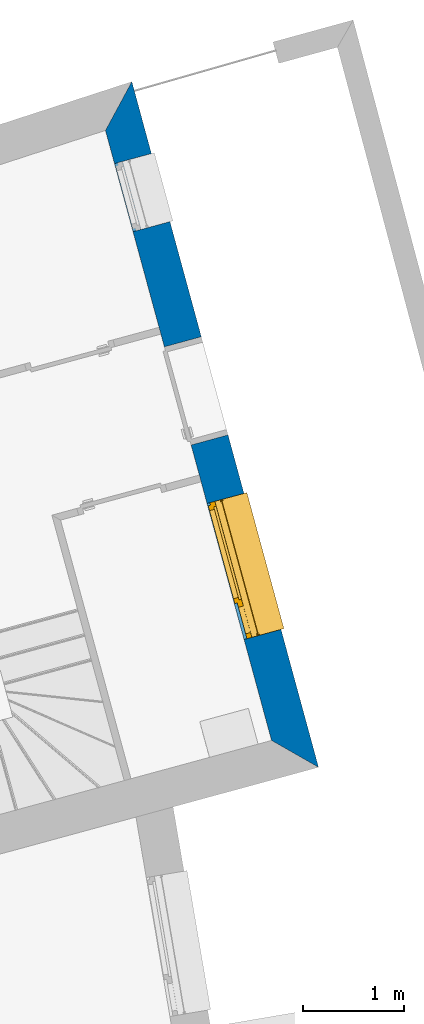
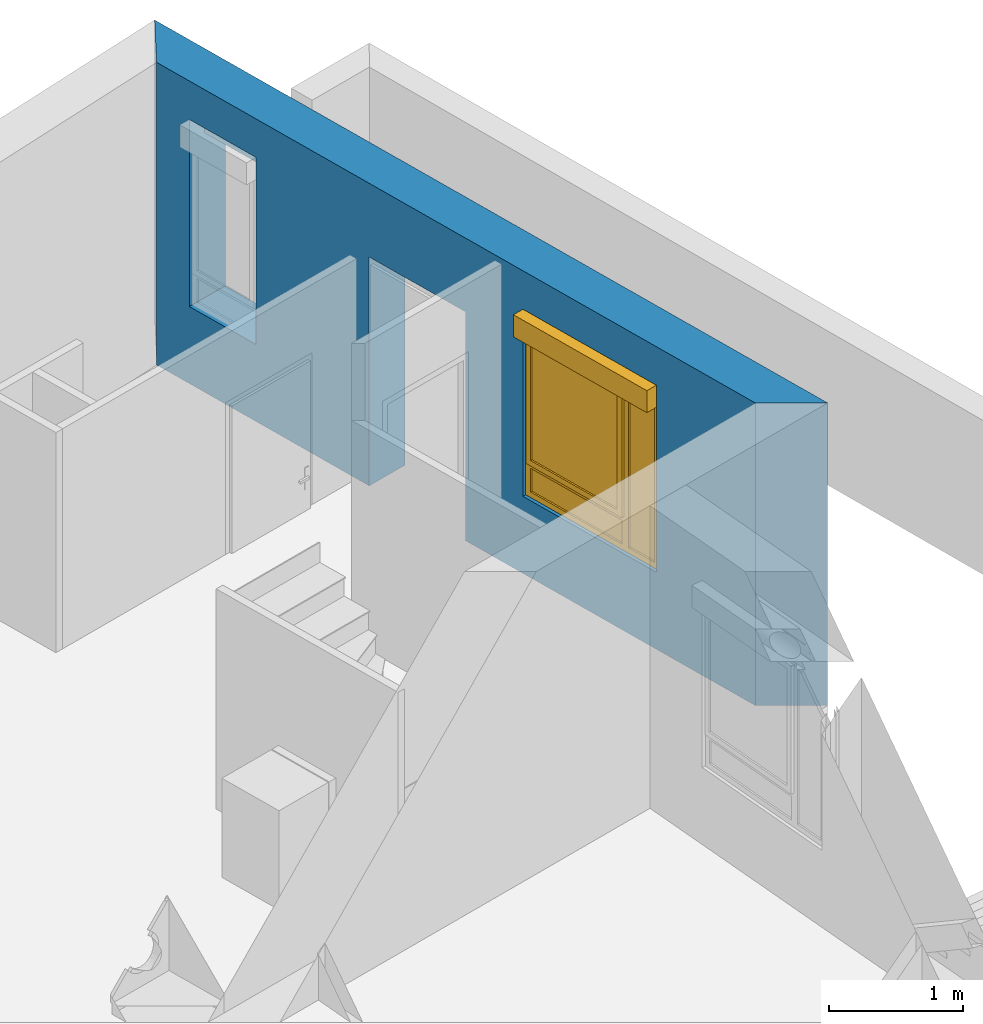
# One storey, part 96 of 195: 1 wall, 1 window, 3 openings.
"""IFC2X3 building model written with IfcOpenShell, lengths in metres."""

import ifcopenshell
import ifcopenshell.guid

model = None  # the IFC model being written
_history = None  # IfcOwnerHistory: only IFC2X3 demands one
_inside = {}  # id of a spatial element -> (the spatial element, [elements in it])
_under = {}  # id of a project, library or spatial element -> (it, [spatial elements below it])
_declared = {}  # id of a project -> (the project, [libraries it declares])
_typed = {}  # id of a type object -> (the type object, [elements of that type])
_made_of = {}  # id of a material, layer set ... -> (it, [elements and type objects made of it])


def new_model(schema):
    """Start an empty IFC model of exactly this schema.

    Asked for "IFC4X3", IfcOpenShell would pick the latest addendum, in which some entities
    have other attributes; the version numbers below select the first issue.
    IFC2X3 requires an IfcOwnerHistory on every rooted entity: one is made here for all.
    """
    global model, _history
    if schema == "IFC4X3":
        model = ifcopenshell.file(schema_version=(4, 3, 0, 0))
    else:
        model = ifcopenshell.file(schema=schema)
    _inside.clear()
    _under.clear()
    _declared.clear()
    _typed.clear()
    _made_of.clear()
    _history = None
    if model.schema == "IFC2X3":
        org = make("IfcOrganization", Name="unknown")
        user = make(
            "IfcPersonAndOrganization",
            ThePerson=make("IfcPerson", FamilyName="unknown"),
            TheOrganization=org,
        )
        app = make(
            "IfcApplication",
            ApplicationDeveloper=org,
            Version="unknown",
            ApplicationFullName="unknown",
            ApplicationIdentifier="unknown",
        )
        _history = make(
            "IfcOwnerHistory",
            OwningUser=user,
            OwningApplication=app,
            ChangeAction="ADDED",
            CreationDate=0,
        )
    return model


def make(cls, **values):
    """One entity of the class cls with the attributes given. An attribute that is None is left unset."""
    return model.create_entity(
        cls, **{name: value for name, value in values.items() if value is not None}
    )


def entity(cls, *values):
    """Any entity or typed value of the class cls, its attributes in the order of the schema. None: left unset."""
    e = model.create_entity(cls)
    for i, value in enumerate(values):
        if value is not None:
            e[i] = value
    return e


def rooted(cls, **values):
    """An entity with a GlobalId (a new one), such as an element, a storey or a relation."""
    return make(cls, GlobalId=ifcopenshell.guid.new(), OwnerHistory=_history, **values)


def si_unit(unit_type, name, prefix=None):
    """IfcSIUnit, for example si_unit("LENGTHUNIT", "METRE", prefix="MILLI")."""
    return make("IfcSIUnit", UnitType=unit_type, Prefix=prefix, Name=name)


def converted_unit(unit_type, name, factor, base, dimensions=None, offset=None):
    """IfcConversionBasedUnit, such as the inch: factor (a typed value) times the base unit."""
    return make(
        "IfcConversionBasedUnit"
        if offset is None
        else "IfcConversionBasedUnitWithOffset",
        ConversionOffset=offset,
        Dimensions=None
        if dimensions is None
        else entity("IfcDimensionalExponents", *dimensions),
        UnitType=unit_type,
        Name=name,
        ConversionFactor=make(
            "IfcMeasureWithUnit", ValueComponent=factor, UnitComponent=base
        ),
    )


def derived_unit(unit_type, elements):
    """IfcDerivedUnit: a product of units, each with its exponent."""
    return make(
        "IfcDerivedUnit",
        Elements=[
            make("IfcDerivedUnitElement", Unit=unit, Exponent=power)
            for unit, power in elements
        ],
        UnitType=unit_type,
    )


def money_unit(currency):
    """IfcMonetaryUnit."""
    return make("IfcMonetaryUnit", Currency=currency)


def assignment(units):
    """IfcUnitAssignment: the units of a project."""
    return None if units is None else make("IfcUnitAssignment", Units=units)


def point(xyz):
    """IfcCartesianPoint."""
    return None if xyz is None else make("IfcCartesianPoint", Coordinates=xyz)


def direction(xyz):
    """IfcDirection."""
    return None if xyz is None else make("IfcDirection", DirectionRatios=xyz)


def frame(location, z_axis=None, x_axis=None):
    """IfcAxis2Placement3D, a coordinate frame: its origin and axes. An axis left out is left unset."""
    return make(
        "IfcAxis2Placement3D",
        Location=point(location),
        Axis=direction(z_axis),
        RefDirection=direction(x_axis),
    )


def frame_2d(location, x_axis=None):
    """IfcAxis2Placement2D, a coordinate frame in the plane: its origin and x axis."""
    return make(
        "IfcAxis2Placement2D", Location=point(location), RefDirection=direction(x_axis)
    )


def origin_with_axes():
    """The frame at (0, 0, 0) with the z axis (0, 0, 1) and the x axis (1, 0, 0) written out."""
    return frame((0.0, 0.0, 0.0), z_axis=(0.0, 0.0, 1.0), x_axis=(1.0, 0.0, 0.0))


def origin_2d_with_axis():
    """The frame at (0, 0) in the plane with the x axis (1, 0) written out."""
    return frame_2d((0.0, 0.0), x_axis=(1.0, 0.0))


def place(relative_to, where):
    """IfcLocalPlacement: puts the frame where relative to a parent placement (None: the world)."""
    return make(
        "IfcLocalPlacement", PlacementRelTo=relative_to, RelativePlacement=where
    )


def context(
    kind, dimensions, precision=None, world=None, true_north=None, identifier=None
):
    """IfcGeometricRepresentationContext, for example the 3D "Model" context."""
    return make(
        "IfcGeometricRepresentationContext",
        ContextIdentifier=identifier,
        ContextType=kind,
        CoordinateSpaceDimension=dimensions,
        Precision=precision,
        WorldCoordinateSystem=world,
        TrueNorth=true_north,
    )


def subcontext(parent, identifier, kind, view, scale=None):
    """IfcGeometricRepresentationSubContext, for example "Body" below "Model"."""
    return make(
        "IfcGeometricRepresentationSubContext",
        ContextIdentifier=identifier,
        ContextType=kind,
        ParentContext=parent,
        TargetScale=scale,
        TargetView=view,
    )


def project(units=None, contexts=None):
    """IfcProject with its units and contexts."""
    return rooted(
        "IfcProject",
        Name="project",
        RepresentationContexts=contexts,
        UnitsInContext=assignment(units),
    )


def spatial(cls, under=None, at=None, **own):
    """A site, building, storey or space (cls), placed at a placement, below another one or the project."""
    s = rooted(cls, ObjectPlacement=at, **own)
    if under is not None:
        _under.setdefault(under.id(), (under, []))[1].append(s)
    return s


def polyline(points):
    """IfcPolyline through the points."""
    return make("IfcPolyline", Points=[point(p) for p in points])


def profile(cls, at=None, kind="AREA", **sizes):
    """A parametric profile (cls). Its sizes go by their IFC names, for example OverallWidth=200.0."""
    return make(cls, ProfileType=kind, Position=at, **sizes)


def rectangle(**sizes):
    """IfcRectangleProfileDef."""
    return profile("IfcRectangleProfileDef", **sizes)


def outline(outer, holes=None, kind="AREA"):
    """IfcArbitraryClosedProfileDef: a profile drawn as a closed curve; with holes, ...WithVoids."""
    if holes is None:
        return make("IfcArbitraryClosedProfileDef", ProfileType=kind, OuterCurve=outer)
    return make(
        "IfcArbitraryProfileDefWithVoids",
        ProfileType=kind,
        OuterCurve=outer,
        InnerCurves=holes,
    )


def extrude(swept, where, along, depth):
    """IfcExtrudedAreaSolid: the profile swept, set in the frame where, extruded along a direction by depth."""
    return make(
        "IfcExtrudedAreaSolid",
        SweptArea=swept,
        Position=where,
        ExtrudedDirection=direction(along),
        Depth=depth,
    )


def faces_of(points, faces, orient=None, outer=None):
    """IfcFace entities. A face is a list of loops; a loop is a list of indices into points, from 0.

    orient and outer hold one flag for each loop. By default every Orientation is true, the
    first loop of a face is its IfcFaceOuterBound and the others are IfcFaceBound.
    """
    made = []
    for i, loops in enumerate(faces):
        bounds = []
        for j, loop in enumerate(loops):
            is_outer = j == 0 if outer is None else outer[i][j]
            bounds.append(
                make(
                    "IfcFaceOuterBound" if is_outer else "IfcFaceBound",
                    Bound=make("IfcPolyLoop", Polygon=[points[k] for k in loop]),
                    Orientation=True if orient is None else orient[i][j],
                )
            )
        made.append(make("IfcFace", Bounds=bounds))
    return made


def open_shell(faces, orient=None, outer=None):
    """The faces of one IfcOpenShell. surface_model builds it on its shared points."""
    return ("IfcOpenShell", faces, orient, outer)


def faceted_brep(points, faces, orient=None, outer=None, voids=None):
    """IfcFacetedBrep: a solid bounded by flat faces; with voids (closed shells), ...WithVoids."""
    shared = [point(p) for p in points]
    hull = make("IfcClosedShell", CfsFaces=faces_of(shared, faces, orient, outer))
    if voids is None:
        return make("IfcFacetedBrep", Outer=hull)
    return make(
        "IfcFacetedBrepWithVoids",
        Outer=hull,
        Voids=[
            make(cls, CfsFaces=faces_of(shared, fs, o, b)) for cls, fs, o, b in voids
        ],
    )


def surface_model(cls, points, shells):
    """IfcFaceBasedSurfaceModel or IfcShellBasedSurfaceModel (cls): surfaces that need not close."""
    shared = [point(p) for p in points]
    made = [make(c, CfsFaces=faces_of(shared, fs, o, b)) for c, fs, o, b in shells]
    if cls == "IfcFaceBasedSurfaceModel":
        return make(cls, FbsmFaces=made)
    return make(cls, SbsmBoundary=made)


def shape(context_of_items, identifier, shape_type, items):
    """IfcShapeRepresentation: the items that make up one representation, for example the "Body"."""
    return make(
        "IfcShapeRepresentation",
        ContextOfItems=context_of_items,
        RepresentationIdentifier=identifier,
        RepresentationType=shape_type,
        Items=items,
    )


def source(mapping_origin, context_of_items, identifier, shape_type, items):
    """IfcRepresentationMap: a shape defined once, which mapped items show again and again."""
    return make(
        "IfcRepresentationMap",
        MappingOrigin=mapping_origin,
        MappedRepresentation=shape(context_of_items, identifier, shape_type, items),
    )


def transform(
    local_origin,
    x_axis=None,
    y_axis=None,
    z_axis=None,
    scale=None,
    scale2=None,
    scale3=None,
    uniform=True,
):
    """IfcCartesianTransformationOperator3D, or its non-uniform kind. x_axis, y_axis, z_axis: its Axis1, 2, 3."""
    if uniform:
        return make(
            "IfcCartesianTransformationOperator3D",
            Axis1=direction(x_axis),
            Axis2=direction(y_axis),
            LocalOrigin=point(local_origin),
            Scale=scale,
            Axis3=direction(z_axis),
        )
    return make(
        "IfcCartesianTransformationOperator3DnonUniform",
        Axis1=direction(x_axis),
        Axis2=direction(y_axis),
        LocalOrigin=point(local_origin),
        Scale=scale,
        Axis3=direction(z_axis),
        Scale2=scale2,
        Scale3=scale3,
    )


def mapped(mapping_source, mapping_target):
    """IfcMappedItem: shows the shape of a source again, moved by a transform."""
    return make(
        "IfcMappedItem", MappingSource=mapping_source, MappingTarget=mapping_target
    )


def material(Name=None, Category=None):
    """IfcMaterial."""
    return make("IfcMaterial", Name=Name, Category=Category)


def layer(
    of_material, thickness, ventilated=None, Name=None, Category=None, Priority=None
):
    """IfcMaterialLayer: one layer of a wall or slab, of a material (None: an air gap)."""
    return make(
        "IfcMaterialLayer",
        Material=of_material,
        LayerThickness=thickness,
        IsVentilated=ventilated,
        Name=Name,
        Category=Category,
        Priority=Priority,
    )


def layer_set(layers, Name=None):
    """IfcMaterialLayerSet."""
    return make("IfcMaterialLayerSet", MaterialLayers=layers, LayerSetName=Name)


def layer_usage(for_layer_set, set_direction, sense, offset, extent=None):
    """IfcMaterialLayerSetUsage: how a layer set lies in its element."""
    return make(
        "IfcMaterialLayerSetUsage",
        ForLayerSet=for_layer_set,
        LayerSetDirection=set_direction,
        DirectionSense=sense,
        OffsetFromReferenceLine=offset,
        ReferenceExtent=extent,
    )


def made_of(thing, what):
    """Note that an element or type object is made of a material, layer set ...; save() writes the relation."""
    if what is not None:
        _made_of.setdefault(what.id(), (what, []))[1].append(thing)
    return thing


def type_object(cls, material=None, **own):
    """A type object (cls), such as IfcWallType, which elements share."""
    return made_of(rooted(cls, **own), material)


def element(
    cls,
    number,
    at=None,
    inside=None,
    cuts=None,
    type_object=None,
    material=None,
    context=None,
    identifier="Body",
    shape_type=None,
    held_by="IfcProductDefinitionShape",
    body=None,
    shapes=None,
    **own,
):
    """One element of the class cls, such as IfcWall. Its Tag is "e" and its number.

    at: its placement. inside: the storey or other place that contains it. cuts: it is an
    opening in that element (IfcRelVoidsElement). A single representation is given by context,
    identifier, shape_type and body (its items); several are given by shapes. held_by: the class
    of the entity that holds the representations. save() writes the other relations.
    """
    e = rooted(cls, Tag="e%d" % number, ObjectPlacement=at, **own)
    if body is not None:
        shapes = [shape(context, identifier, shape_type, body)]
    if shapes is not None:
        e.Representation = make(held_by, Representations=shapes)
    if inside is not None:
        _inside.setdefault(inside.id(), (inside, []))[1].append(e)
    if cuts is not None:
        rooted(
            "IfcRelVoidsElement", RelatingBuildingElement=cuts, RelatedOpeningElement=e
        )
    if type_object is not None:
        _typed.setdefault(type_object.id(), (type_object, []))[1].append(e)
    return made_of(e, material)


def fill(opening, filler):
    """IfcRelFillsElement: the door or window that sits in an opening."""
    return rooted(
        "IfcRelFillsElement",
        RelatingOpeningElement=opening,
        RelatedBuildingElement=filler,
    )


def aggregate(whole, parts):
    """IfcRelAggregates: a whole, such as a stair, and the parts it consists of."""
    return rooted("IfcRelAggregates", RelatingObject=whole, RelatedObjects=parts)


def save(model, path):
    """Write the relations noted so far, then the file.

    IfcRelAggregates (storeys below a building ...), IfcRelContainedInSpatialStructure (elements
    in a storey), IfcRelDefinesByType, IfcRelAssociatesMaterial and IfcRelDeclares: one each for
    every whole, place, type object, material and project.
    """
    for whole, parts in _under.values():
        aggregate(whole, parts)
    for where, things in _inside.values():
        rooted(
            "IfcRelContainedInSpatialStructure",
            RelatedElements=things,
            RelatingStructure=where,
        )
    for kind, things in _typed.values():
        rooted("IfcRelDefinesByType", RelatedObjects=things, RelatingType=kind)
    for what, things in _made_of.values():
        rooted("IfcRelAssociatesMaterial", RelatedObjects=things, RelatingMaterial=what)
    for by, libraries in _declared.values():
        rooted("IfcRelDeclares", RelatingContext=by, RelatedDefinitions=libraries)
    model.write(path)


model = new_model("IFC2X3")

# Units and contexts
model_context = context("Model", 3, precision=1e-05, world=origin_with_axes(), true_north=direction((0.0, 1.0)))
body_context = subcontext(model_context, "Body", "Model", "MODEL_VIEW")
ifc_project = project(units=[si_unit("LENGTHUNIT", "METRE"), si_unit("AREAUNIT", "SQUARE_METRE"), si_unit("VOLUMEUNIT", "CUBIC_METRE"), converted_unit("PLANEANGLEUNIT", "DEGREE", entity("IfcPlaneAngleMeasure", 0.0174532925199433), si_unit("PLANEANGLEUNIT", "RADIAN"), dimensions=[0, 0, 0, 0, 0, 0, 0]), money_unit("CHF"), converted_unit("TIMEUNIT", "Year", entity("IfcTimeMeasure", 31557600.0), si_unit("TIMEUNIT", "SECOND"), dimensions=[0, 0, 1, 0, 0, 0, 0]), si_unit("MASSUNIT", "GRAM", prefix="KILO"), si_unit("THERMODYNAMICTEMPERATUREUNIT", "DEGREE_CELSIUS"), si_unit("LUMINOUSINTENSITYUNIT", "LUMEN"), si_unit("ENERGYUNIT", "JOULE", prefix="MEGA"), derived_unit("THERMALCONDUCTANCEUNIT", [(si_unit("POWERUNIT", "WATT"), 1), (si_unit("LENGTHUNIT", "METRE"), -1), (si_unit("THERMODYNAMICTEMPERATUREUNIT", "KELVIN"), -1)]), derived_unit("SPECIFICHEATCAPACITYUNIT", [(si_unit("ENERGYUNIT", "JOULE"), 1), (si_unit("MASSUNIT", "GRAM", prefix="KILO"), -1), (si_unit("THERMODYNAMICTEMPERATUREUNIT", "KELVIN"), -1)]), derived_unit("MASSDENSITYUNIT", [(si_unit("MASSUNIT", "GRAM", prefix="KILO"), 1), (si_unit("VOLUMEUNIT", "CUBIC_METRE"), -1)])], contexts=[model_context])

# Site, building, storey
site_placement = place(None, origin_with_axes())
site = spatial("IfcSite", under=ifc_project, at=site_placement, Name="Site", CompositionType="ELEMENT")
building_placement = place(site_placement, origin_with_axes())
building = spatial("IfcBuilding", under=site, at=building_placement, Name="Bâtiment", CompositionType="ELEMENT")
storey_placement = place(building_placement, origin_with_axes())
storey = spatial("IfcBuildingStorey", under=building, at=storey_placement, Name="rdc", CompositionType="ELEMENT", Elevation=0.0)

# Wall, openings, window
ifc_material_1 = material(Name="Parpaing 312445824")
ifc_layer_1 = layer(ifc_material_1, 0.22, ventilated="UNKNOWN")
ifc_material_2 = material(Name="Isolant styromousse 301821074")
ifc_layer_2 = layer(ifc_material_2, 0.16, ventilated="UNKNOWN")
ifc_layer_set = layer_set([ifc_layer_1, ifc_layer_2], Name="isol int 22+16 0836643197")
ifc_layer_usage = layer_usage(ifc_layer_set, "AXIS2", "NEGATIVE", 0.0)
wall_type = type_object("IfcWallType", Name="isol int 22+16 0836643197 380", PredefinedType="NOTDEFINED")
wall_placement = place(storey_placement, frame((9586.85805817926, -1013.814604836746, 57.7), z_axis=(0.0, 0.0, 1.0), x_axis=(0.2627340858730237, -0.9648682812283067, 0.0)))
wall = element("IfcWallStandardCase", 1, at=wall_placement, inside=storey, type_object=wall_type, material=ifc_layer_usage, Name="Mur-113", context=body_context, shape_type="SweptSolid", body=[
    extrude(outline(polyline([(0.3988171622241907, -0.3799999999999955), (6.677999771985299, -0.3799999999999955), (7.057999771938, 0.0), (0.0, 0.0), (0.3988171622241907, -0.3799999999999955)])), origin_with_axes(), (0.0, 0.0, 1.0), 2.75),
])
opening_1_placement = place(wall_placement, frame((4.938572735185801, 0.0, 0.7000000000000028), z_axis=(0.0, 0.0, 1.0), x_axis=(1.0, 0.0, 0.0)))
opening_1 = element("IfcOpeningElement", 2, at=opening_1_placement, cuts=wall, Name="Fen-045", context=body_context, shape_type="Brep", body=[
    faceted_brep([(-0.6999999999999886, -0.220000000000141, 1.5), (0.6999999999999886, -0.220000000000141, 1.5), (0.6999999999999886, 1.790229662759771, 1.5), (-0.7000000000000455, 1.790229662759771, 1.5), (-0.6999999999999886, -0.220000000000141, 1.700000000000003), (0.6999999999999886, -0.220000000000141, 1.700000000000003), (0.6999999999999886, -0.2999999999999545, 1.5), (0.6999999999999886, -0.2999999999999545, 0.0), (0.6999999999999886, 1.790229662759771, 0.0), (-0.7000000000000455, 1.790229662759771, 0.0), (-0.6999999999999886, -0.3000000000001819, 1.5), (-0.6999999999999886, -0.3000000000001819, 0.0), (-0.6999999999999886, -0.4800000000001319, 1.5), (-0.6999999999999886, -0.4800000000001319, 1.700000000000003), (0.6999999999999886, -0.4800000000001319, 1.700000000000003), (0.6999999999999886, -0.4800000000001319, 1.5), (0.6999999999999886, -2.170229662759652, 1.5), (0.6999999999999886, -2.170229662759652, 0.0), (-0.6999999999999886, -2.170229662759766, 0.0), (-0.6999999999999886, -2.170229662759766, 1.5)], [[[0, 1, 2, 3]], [[1, 0, 4, 5]], [[1, 6, 7, 8, 2]], [[2, 8, 9, 3]], [[10, 0, 3, 9, 11]], [[0, 10, 12, 13, 4]], [[14, 5, 4, 13]], [[6, 1, 5, 14, 15]], [[6, 15, 16, 17, 7]], [[7, 11, 9, 8]], [[12, 10, 11, 18, 19]], [[12, 15, 14, 13]], [[15, 12, 19, 16]], [[19, 18, 17, 16]], [[11, 7, 17, 18]]]),
])
opening_2_placement = place(wall_placement, frame((3.131626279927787, 0.0, 0.0), z_axis=(0.0, 0.0, 1.0), x_axis=(1.0, 0.0, 0.0)))
element("IfcOpeningElement", 3, at=opening_2_placement, cuts=wall, Name="Por-290", context=body_context, shape_type="SweptSolid", body=[
    extrude(rectangle(XDim=1.01000001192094, YDim=2.079999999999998, at=origin_2d_with_axis()), frame((-5.960487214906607e-09, 0.3800000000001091, 1.039999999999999), z_axis=(0.0, -1.0, 0.0), x_axis=(-1.0, 0.0, 0.0)), (0.0, 0.0, 1.0), 0.76),
])
opening_3_placement = place(wall_placement, frame((1.090861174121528, 0.0, 0.7000000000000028), z_axis=(0.0, 0.0, 1.0), x_axis=(1.0, 0.0, 0.0)))
element("IfcOpeningElement", 4, at=opening_3_placement, cuts=wall, Name="Fen-050", context=body_context, shape_type="Brep", body=[
    faceted_brep([(-0.3500000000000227, -0.2199999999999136, 1.5), (0.3500000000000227, -0.2199999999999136, 1.5), (0.3500000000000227, 1.790229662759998, 1.5), (-0.3500000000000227, 1.790229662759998, 1.5), (-0.3500000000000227, -0.2199999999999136, 1.700000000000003), (0.3500000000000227, -0.2199999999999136, 1.700000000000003), (0.3500000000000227, -0.3000000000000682, 1.5), (0.3499999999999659, -0.3000000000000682, 0.0), (0.3500000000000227, 1.790229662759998, 0.0), (-0.3500000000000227, 1.790229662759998, 0.0), (-0.3499999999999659, -0.2999999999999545, 1.5), (-0.3499999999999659, -0.2999999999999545, 0.0), (-0.3500000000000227, -0.4800000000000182, 1.5), (-0.3500000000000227, -0.4800000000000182, 1.700000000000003), (0.3500000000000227, -0.4799999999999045, 1.700000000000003), (0.3500000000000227, -0.4799999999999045, 1.5), (0.3500000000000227, -2.170229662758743, 1.5), (0.3500000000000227, -2.170229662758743, 0.0), (-0.3500000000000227, -2.170229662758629, 0.0), (-0.3500000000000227, -2.170229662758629, 1.5)], [[[0, 1, 2, 3]], [[1, 0, 4, 5]], [[1, 6, 7, 8, 2]], [[2, 8, 9, 3]], [[10, 0, 3, 9, 11]], [[0, 10, 12, 13, 4]], [[14, 5, 4, 13]], [[6, 1, 5, 14, 15]], [[6, 15, 16, 17, 7]], [[7, 11, 9, 8]], [[12, 10, 11, 18, 19]], [[12, 15, 14, 13]], [[15, 12, 19, 16]], [[19, 18, 17, 16]], [[11, 7, 17, 18]]]),
])
window_style = type_object("IfcWindowStyle", Name="Fenêtre variable 27", ConstructionType="NOTDEFINED", OperationType="TRIPLE_PANEL_LEFT", ParameterTakesPrecedence=False, Sizeable=False)
shared_shape = source(origin_with_axes(), body_context, "Body", "SurfaceModel", [
    surface_model("IfcShellBasedSurfaceModel", [(0.7, -0.05100000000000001, 0.05), (-0.7, -0.05100000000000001, 0.05000000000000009), (-0.7, -0.05100000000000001, 0.04000000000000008), (0.7, -0.05100000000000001, 0.04), (-0.7, -0.3799999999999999, 0.02900000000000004), (0.7, -0.3799999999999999, 0.02899999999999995), (-0.7, -0.3799999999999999, 0.00900000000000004), (0.7, -0.3799999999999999, 0.008999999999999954), (-0.7, -0.3699999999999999, 0.01900000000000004), (0.7, -0.3699999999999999, 0.01899999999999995)], [open_shell([[[0, 1, 2, 3]], [[3, 2, 4, 5]], [[5, 4, 6, 7]], [[7, 6, 8, 9]]])]),
    faceted_brep([(0.7, -0.13, 1.7), (0.7, 0.13, 1.7), (0.697, 0.13, 1.7), (0.697, -0.13, 1.7), (0.7, -0.13, 1.5), (0.7, 0.13, 1.5), (0.697, 0.13, 1.5), (0.697, -0.13, 1.5)], [[[0, 1, 2, 3]], [[0, 4, 5, 1]], [[1, 5, 6, 2]], [[3, 2, 6, 7]], [[4, 0, 3, 7]], [[5, 4, 7, 6]]]),
    faceted_brep([(-0.6970000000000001, -0.1299999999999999, 1.7), (-0.6970000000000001, 0.1300000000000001, 1.7), (-0.7000000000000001, 0.1300000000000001, 1.7), (-0.7000000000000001, -0.1299999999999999, 1.7), (-0.6970000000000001, -0.1299999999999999, 1.5), (-0.6970000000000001, 0.1300000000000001, 1.5), (-0.7000000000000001, 0.1300000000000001, 1.5), (-0.7000000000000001, -0.1299999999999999, 1.5)], [[[0, 1, 2, 3]], [[0, 4, 5, 1]], [[1, 5, 6, 2]], [[3, 2, 6, 7]], [[4, 0, 3, 7]], [[5, 4, 7, 6]]]),
    faceted_brep([(0.697, -0.13, 1.5), (0.697, -0.13, 1.7), (-0.697, -0.1299999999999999, 1.7), (-0.697, -0.1299999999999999, 1.5), (0.697, -0.127, 1.5), (0.697, -0.127, 1.697), (0.697, 0.127, 1.697), (0.697, 0.127, 1.503), (0.697, -0.108, 1.503), (0.697, -0.108, 1.5), (0.697, 0.13, 1.5), (0.697, 0.13, 1.7), (-0.697, 0.1300000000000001, 1.7), (-0.697, 0.1300000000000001, 1.5), (-0.697, -0.1079999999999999, 1.5), (-0.697, -0.1079999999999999, 1.503), (-0.697, 0.1270000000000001, 1.503), (-0.697, 0.1270000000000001, 1.697), (-0.697, -0.1269999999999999, 1.697), (-0.697, -0.1269999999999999, 1.5)], [[[0, 1, 2, 3]], [[0, 4, 5, 6, 7, 8, 9, 10, 11, 1]], [[1, 11, 12, 2]], [[3, 2, 12, 13, 14, 15, 16, 17, 18, 19]], [[4, 0, 3, 19]], [[5, 4, 19, 18]], [[6, 5, 18, 17]], [[7, 6, 17, 16]], [[8, 7, 16, 15]], [[9, 8, 15, 14]], [[10, 9, 14, 13]], [[11, 10, 13, 12]]]),
    faceted_brep([(0.694, -0.08075423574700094, 1.585760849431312), (0.694, -0.07705479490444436, 1.571954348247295), (0.694, -0.07101408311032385, 1.559), (0.694, -0.06281564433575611, 1.547291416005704), (0.694, -0.05270858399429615, 1.537184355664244), (0.694, -0.04099999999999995, 1.528985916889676), (0.694, -0.02804565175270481, 1.522945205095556), (0.694, -0.01423915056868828, 1.519245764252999), (0.694, 0.0, 1.518), (0.694, 0.01423915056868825, 1.519245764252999), (0.694, 0.02804565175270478, 1.522945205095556), (0.694, 0.04099999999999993, 1.528985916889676), (0.694, 0.05270858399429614, 1.537184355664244), (0.694, 0.06281564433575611, 1.547291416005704), (0.694, 0.07101408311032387, 1.559), (0.694, 0.07705479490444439, 1.571954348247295), (0.694, 0.08075423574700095, 1.585760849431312), (0.694, 0.0819999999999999, 1.6), (0.694, 0.08075423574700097, 1.614239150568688), (0.694, 0.0770547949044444, 1.628045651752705), (0.694, 0.07101408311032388, 1.641), (0.694, 0.06281564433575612, 1.652708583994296), (0.694, 0.05270858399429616, 1.662815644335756), (0.694, 0.04099999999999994, 1.671014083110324), (0.694, 0.02804565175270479, 1.677054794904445), (0.694, 0.01423915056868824, 1.680754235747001), (0.694, 0.0, 1.682), (0.694, -0.01423915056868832, 1.680754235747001), (0.694, -0.02804565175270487, 1.677054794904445), (0.694, -0.04100000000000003, 1.671014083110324), (0.694, -0.05270858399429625, 1.662815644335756), (0.694, -0.06281564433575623, 1.652708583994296), (0.694, -0.07101408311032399, 1.641), (0.694, -0.07705479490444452, 1.628045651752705), (0.694, -0.0807542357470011, 1.614239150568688), (0.694, -0.08200000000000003, 1.6), (-0.694, -0.08075423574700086, 1.585760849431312), (-0.694, -0.07705479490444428, 1.571954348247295), (-0.694, -0.07101408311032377, 1.559), (-0.694, -0.06281564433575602, 1.547291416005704), (-0.694, -0.05270858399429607, 1.537184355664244), (-0.694, -0.04099999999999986, 1.528985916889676), (-0.694, -0.02804565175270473, 1.522945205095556), (-0.694, -0.0142391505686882, 1.519245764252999), (-0.694, 0.0, 1.518), (-0.694, 0.01423915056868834, 1.519245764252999), (-0.694, 0.02804565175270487, 1.522945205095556), (-0.694, 0.04100000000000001, 1.528985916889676), (-0.694, 0.05270858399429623, 1.537184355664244), (-0.694, 0.06281564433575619, 1.547291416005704), (-0.694, 0.07101408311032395, 1.559), (-0.694, 0.07705479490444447, 1.571954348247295), (-0.694, 0.08075423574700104, 1.585760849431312), (-0.694, 0.08199999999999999, 1.6), (-0.694, 0.08075423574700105, 1.614239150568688), (-0.694, 0.07705479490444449, 1.628045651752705), (-0.694, 0.07101408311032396, 1.641), (-0.694, 0.0628156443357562, 1.652708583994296), (-0.694, 0.05270858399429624, 1.662815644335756), (-0.694, 0.04100000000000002, 1.671014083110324), (-0.694, 0.02804565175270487, 1.677054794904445), (-0.694, 0.01423915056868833, 1.680754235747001), (-0.694, 0.0, 1.682), (-0.694, -0.01423915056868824, 1.680754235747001), (-0.694, -0.02804565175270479, 1.677054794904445), (-0.694, -0.04099999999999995, 1.671014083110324), (-0.694, -0.05270858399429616, 1.662815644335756), (-0.694, -0.06281564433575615, 1.652708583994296), (-0.694, -0.07101408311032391, 1.641), (-0.694, -0.07705479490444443, 1.628045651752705), (-0.694, -0.08075423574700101, 1.614239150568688), (-0.694, -0.08199999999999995, 1.6)], [[[0, 1, 2, 3, 4, 5, 6, 7, 8, 9, 10, 11, 12, 13, 14, 15, 16, 17, 18, 19, 20, 21, 22, 23, 24, 25, 26, 27, 28, 29, 30, 31, 32, 33, 34, 35]], [[1, 0, 36, 37]], [[2, 1, 37, 38]], [[3, 2, 38, 39]], [[4, 3, 39, 40]], [[5, 4, 40, 41]], [[6, 5, 41, 42]], [[7, 6, 42, 43]], [[8, 7, 43, 44]], [[9, 8, 44, 45]], [[10, 9, 45, 46]], [[11, 10, 46, 47]], [[12, 11, 47, 48]], [[13, 12, 48, 49]], [[14, 13, 49, 50]], [[15, 14, 50, 51]], [[16, 15, 51, 52]], [[17, 16, 52, 53]], [[18, 17, 53, 54]], [[19, 18, 54, 55]], [[20, 19, 55, 56]], [[21, 20, 56, 57]], [[22, 21, 57, 58]], [[23, 22, 58, 59]], [[24, 23, 59, 60]], [[25, 24, 60, 61]], [[26, 25, 61, 62]], [[27, 26, 62, 63]], [[28, 27, 63, 64]], [[29, 28, 64, 65]], [[30, 29, 65, 66]], [[31, 30, 66, 67]], [[32, 31, 67, 68]], [[33, 32, 68, 69]], [[34, 33, 69, 70]], [[35, 34, 70, 71]], [[0, 35, 71, 36]], [[36, 71, 70, 69, 68, 67, 66, 65, 64, 63, 62, 61, 60, 59, 58, 57, 56, 55, 54, 53, 52, 51, 50, 49, 48, 47, 46, 45, 44, 43, 42, 41, 40, 39, 38, 37]]]),
    faceted_brep([(-0.7, -0.105, 0.03), (-0.7, -0.13, 0.03), (-0.7, -0.1299999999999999, 1.5), (-0.7, -0.1049999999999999, 1.5), (-0.6749999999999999, -0.105, 0.03), (-0.6749999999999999, -0.108, 0.03), (-0.697, -0.108, 0.03), (-0.697, -0.127, 0.03), (-0.6749999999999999, -0.127, 0.03), (-0.6749999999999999, -0.13, 0.03), (-0.6749999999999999, -0.1299999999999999, 1.5), (-0.6749999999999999, -0.1269999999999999, 1.5), (-0.697, -0.1269999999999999, 1.5), (-0.697, -0.1079999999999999, 1.5), (-0.6749999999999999, -0.1079999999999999, 1.5), (-0.6749999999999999, -0.1049999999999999, 1.5)], [[[0, 1, 2, 3]], [[0, 4, 5, 6, 7, 8, 9, 1]], [[1, 9, 10, 2]], [[3, 2, 10, 11, 12, 13, 14, 15]], [[4, 0, 3, 15]], [[5, 4, 15, 14]], [[6, 5, 14, 13]], [[7, 6, 13, 12]], [[8, 7, 12, 11]], [[9, 8, 11, 10]]]),
    faceted_brep([(0.7, -0.105, 0.03), (0.7, -0.1049999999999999, 1.5), (0.7, -0.1299999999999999, 1.5), (0.7, -0.13, 0.03), (0.6749999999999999, -0.105, 0.03), (0.6749999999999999, -0.1049999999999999, 1.5), (0.6749999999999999, -0.1079999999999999, 1.5), (0.697, -0.1079999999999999, 1.5), (0.697, -0.1269999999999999, 1.5), (0.6749999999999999, -0.1269999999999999, 1.5), (0.6749999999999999, -0.1299999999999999, 1.5), (0.6749999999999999, -0.13, 0.03), (0.6749999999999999, -0.127, 0.03), (0.697, -0.127, 0.03), (0.697, -0.108, 0.03), (0.6749999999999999, -0.108, 0.03)], [[[0, 1, 2, 3]], [[4, 5, 1, 0]], [[1, 5, 6, 7, 8, 9, 10, 2]], [[3, 2, 10, 11]], [[0, 3, 11, 12, 13, 14, 15, 4]], [[15, 6, 5, 4]], [[14, 7, 6, 15]], [[13, 8, 7, 14]], [[12, 9, 8, 13]], [[11, 10, 9, 12]]]),
    surface_model("IfcShellBasedSurfaceModel", [(0.697, -0.115, 1.6), (-0.697, -0.1149999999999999, 1.6), (-0.697, -0.12, 1.6), (0.697, -0.12, 1.6), (0.697, -0.115, 1.6), (0.697, -0.12, 1.6), (-0.697, -0.1199999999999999, 1.6), (-0.697, -0.1149999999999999, 1.6)], [open_shell([[[0, 1, 2, 3]], [[4, 5, 6, 7]]])]),
    faceted_brep([(0.697, -0.115, 1.6), (0.697, -0.1166666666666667, 1.583333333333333), (-0.697, -0.1166666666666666, 1.583333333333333), (-0.697, -0.1149999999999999, 1.6), (0.697, -0.12, 1.6), (0.697, -0.1216666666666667, 1.583333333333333), (0.697, -0.1216666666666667, 1.566666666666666), (0.697, -0.12, 1.55), (0.697, -0.115, 1.55), (0.697, -0.1166666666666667, 1.566666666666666), (-0.697, -0.1166666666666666, 1.566666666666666), (-0.697, -0.1149999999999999, 1.55), (-0.697, -0.1199999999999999, 1.55), (-0.697, -0.1216666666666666, 1.566666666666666), (-0.697, -0.1216666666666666, 1.583333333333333), (-0.697, -0.1199999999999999, 1.6)], [[[0, 1, 2, 3]], [[0, 4, 5, 6, 7, 8, 9, 1]], [[1, 9, 10, 2]], [[3, 2, 10, 11, 12, 13, 14, 15]], [[4, 0, 3, 15]], [[5, 4, 15, 14]], [[6, 5, 14, 13]], [[7, 6, 13, 12]], [[8, 7, 12, 11]], [[9, 8, 11, 10]]]),
    faceted_brep([(0.697, -0.115, 1.55), (0.697, -0.1166666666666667, 1.533333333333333), (-0.697, -0.1166666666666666, 1.533333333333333), (-0.697, -0.1149999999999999, 1.55), (0.697, -0.12, 1.55), (0.697, -0.1216666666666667, 1.533333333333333), (0.697, -0.1216666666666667, 1.516666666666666), (0.697, -0.12, 1.5), (0.697, -0.115, 1.5), (0.697, -0.1166666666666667, 1.516666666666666), (-0.697, -0.1166666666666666, 1.516666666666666), (-0.697, -0.1149999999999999, 1.5), (-0.697, -0.1199999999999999, 1.5), (-0.697, -0.1216666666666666, 1.516666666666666), (-0.697, -0.1216666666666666, 1.533333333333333), (-0.697, -0.1199999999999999, 1.55)], [[[0, 1, 2, 3]], [[0, 4, 5, 6, 7, 8, 9, 1]], [[1, 9, 10, 2]], [[3, 2, 10, 11, 12, 13, 14, 15]], [[4, 0, 3, 15]], [[5, 4, 15, 14]], [[6, 5, 14, 13]], [[7, 6, 13, 12]], [[8, 7, 12, 11]], [[9, 8, 11, 10]]]),
    faceted_brep([(0.6749999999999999, 0.0, 1.45), (0.6749999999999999, -0.02500000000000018, 1.45), (0.6499999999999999, -0.02500000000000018, 1.45), (0.6499999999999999, -0.05000000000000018, 1.45), (0.7, -0.05000000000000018, 1.45), (0.7, 0.0, 1.45), (0.6749999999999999, 0.0, 0.3099999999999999), (0.6749999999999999, -0.02500000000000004, 0.3099999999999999), (0.6499999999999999, -0.02500000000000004, 0.335), (0.6499999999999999, -0.02500000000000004, 0.3099999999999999), (0.6499999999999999, -0.05000000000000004, 0.335), (0.6499999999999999, -0.05000000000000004, 0.265), (0.6499999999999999, -0.05000000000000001, 0.05000000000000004), (0.7, -0.05000000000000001, 0.05000000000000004), (0.7, 0.0, 0.05000000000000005), (0.6499999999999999, 0.0, 0.05000000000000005), (0.6499999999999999, 0.0, 0.265), (0.6499999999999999, 0.0, 0.3099999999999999)], [[[0, 1, 2, 3, 4, 5]], [[1, 0, 6, 7]], [[8, 2, 1, 7, 9]], [[2, 8, 10, 3]], [[10, 11, 12, 13, 4, 3]], [[5, 4, 13, 14]], [[6, 0, 5, 14, 15, 16, 17]], [[6, 17, 9, 7]], [[9, 17, 16, 11, 10, 8]], [[15, 12, 11, 16]], [[14, 13, 12, 15]]]),
    faceted_brep([(-0.3068894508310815, -0.02500000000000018, 1.45), (-0.3318894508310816, -0.02500000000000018, 1.45), (-0.3318894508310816, 0.0, 1.45), (-0.3768894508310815, 0.0, 1.45), (-0.3768894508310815, -0.05000000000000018, 1.45), (-0.3068894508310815, -0.05000000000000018, 1.45), (-0.3068894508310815, -0.02500000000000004, 0.335), (-0.3068894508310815, -0.02500000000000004, 0.3099999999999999), (-0.3318894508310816, -0.02500000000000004, 0.3099999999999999), (-0.3318894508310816, 0.0, 0.3099999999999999), (-0.3068894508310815, 0.0, 0.3099999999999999), (-0.3068894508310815, 0.0, 0.265), (-0.3068894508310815, 0.0, 0.05000000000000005), (-0.3768894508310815, 0.0, 0.05000000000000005), (-0.3768894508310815, -0.05000000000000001, 0.05000000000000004), (-0.3068894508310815, -0.05000000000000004, 0.265), (-0.3068894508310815, -0.05000000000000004, 0.335), (-0.3068894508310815, -0.05000000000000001, 0.05000000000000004)], [[[0, 1, 2, 3, 4, 5]], [[1, 0, 6, 7, 8]], [[9, 2, 1, 8]], [[9, 10, 11, 12, 13, 3, 2]], [[13, 14, 4, 3]], [[15, 16, 5, 4, 14, 17]], [[6, 0, 5, 16]], [[7, 6, 16, 15, 11, 10]], [[10, 9, 8, 7]], [[11, 15, 17, 12]], [[12, 17, 14, 13]]]),
    faceted_brep([(0.6499999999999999, -0.02500000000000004, 0.335), (-0.3068894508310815, -0.02500000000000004, 0.335), (-0.3068894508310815, -0.05000000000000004, 0.335), (0.6499999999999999, -0.05000000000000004, 0.335), (-0.3068894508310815, -0.02500000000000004, 0.3099999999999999), (0.6499999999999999, -0.02500000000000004, 0.3099999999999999), (-0.3068894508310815, 0.0, 0.3099999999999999), (-0.3068894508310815, 0.0, 0.265), (-0.3068894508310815, -0.05000000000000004, 0.265), (0.6499999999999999, -0.05000000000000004, 0.265), (0.6499999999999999, 0.0, 0.265), (0.6499999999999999, 0.0, 0.3099999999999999)], [[[0, 1, 2, 3]], [[4, 1, 0, 5]], [[4, 6, 7, 8, 2, 1]], [[2, 8, 9, 3]], [[5, 0, 3, 9, 10, 11]], [[11, 6, 4, 5]], [[6, 11, 10, 7]], [[10, 9, 8, 7]]]),
    faceted_brep([(0.6749999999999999, 0.0, 1.45), (0.6749999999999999, 0.0, 1.475), (-0.3318894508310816, 0.0, 1.475), (-0.3318894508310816, 0.0, 1.45), (-0.3768894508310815, 0.0, 1.45), (-0.6499999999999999, 0.0, 1.45), (-0.7, 0.0, 1.45), (-0.7, 0.0, 1.5), (0.7, 0.0, 1.5), (0.7, 0.0, 1.45), (0.6749999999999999, -0.02500000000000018, 1.45), (0.6749999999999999, -0.02500000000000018, 1.475), (-0.3318894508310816, -0.02500000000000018, 1.475), (-0.3318894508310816, -0.02500000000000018, 1.45), (-0.3068894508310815, -0.02500000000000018, 1.45), (-0.3068894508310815, -0.05000000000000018, 1.45), (-0.3768894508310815, -0.05000000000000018, 1.45), (-0.6499999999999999, -0.05000000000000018, 1.45), (-0.7, -0.05000000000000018, 1.45), (-0.7, -0.05000000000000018, 1.5), (0.7, -0.05000000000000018, 1.5), (0.7, -0.05000000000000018, 1.45), (0.6499999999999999, -0.05000000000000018, 1.45), (0.6499999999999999, -0.02500000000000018, 1.45)], [[[0, 1, 2, 3, 4, 5, 6, 7, 8, 9]], [[1, 0, 10, 11]], [[2, 1, 11, 12]], [[3, 2, 12, 13]], [[13, 14, 15, 16, 4, 3]], [[4, 16, 17, 5]], [[5, 17, 18, 6]], [[6, 18, 19, 7]], [[7, 19, 20, 8]], [[8, 20, 21, 9]], [[10, 0, 9, 21, 22, 23]], [[14, 13, 12, 11, 10, 23]], [[14, 23, 22, 15]], [[16, 15, 22, 21, 20, 19, 18, 17]]]),
    faceted_brep([(-0.6499999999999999, -0.05000000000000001, 0.05), (-0.7, -0.05000000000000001, 0.05), (-0.7, 0.0, 0.05000000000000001), (-0.6499999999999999, 0.0, 0.05000000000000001), (-0.6499999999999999, -0.05000000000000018, 1.45), (-0.7, -0.05000000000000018, 1.45), (-0.7, 0.0, 1.45), (-0.6499999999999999, 0.0, 1.45)], [[[0, 1, 2, 3]], [[0, 4, 5, 1]], [[1, 5, 6, 2]], [[3, 2, 6, 7]], [[4, 0, 3, 7]], [[5, 4, 7, 6]]]),
    faceted_brep([(0.6499999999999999, -0.05000000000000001, 0.05), (0.7, -0.05000000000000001, 0.05), (0.7, 0.0, 0.05000000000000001), (0.6499999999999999, 0.0, 0.05000000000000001), (-0.3068894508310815, -0.05000000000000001, 0.05), (-0.3768894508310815, -0.05000000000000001, 0.05), (-0.6499999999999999, -0.05000000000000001, 0.05), (-0.7, -0.05000000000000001, 0.05), (-0.7, -0.05, 0.0), (0.7, -0.05, 0.0), (0.7, 0.0, 0.0), (-0.7, 0.0, 0.0), (-0.7, 0.0, 0.05000000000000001), (-0.6499999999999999, 0.0, 0.05000000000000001), (-0.3768894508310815, 0.0, 0.05000000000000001), (-0.3068894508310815, 0.0, 0.05000000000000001)], [[[0, 1, 2, 3]], [[0, 4, 5, 6, 7, 8, 9, 1]], [[1, 9, 10, 2]], [[3, 2, 10, 11, 12, 13, 14, 15]], [[4, 0, 3, 15]], [[5, 4, 15, 14]], [[6, 5, 14, 13]], [[7, 6, 13, 12]], [[8, 7, 12, 11]], [[9, 8, 11, 10]]]),
    faceted_brep([(0.625, -0.02500000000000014, 1.425), (0.6749999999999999, -0.02500000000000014, 1.425), (0.6749999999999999, 0.02499999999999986, 1.425), (0.625, 0.02499999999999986, 1.425), (0.625, -0.02500000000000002, 0.3599999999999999), (0.6749999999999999, -0.02500000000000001, 0.3599999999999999), (0.6749999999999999, 0.02499999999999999, 0.3599999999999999), (0.625, 0.02499999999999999, 0.3599999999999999)], [[[0, 1, 2, 3]], [[0, 4, 5, 1]], [[1, 5, 6, 2]], [[3, 2, 6, 7]], [[4, 0, 3, 7]], [[5, 4, 7, 6]]]),
    faceted_brep([(-0.2818894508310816, -0.02500000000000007, 0.3599999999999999), (-0.3318894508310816, -0.02500000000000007, 0.3599999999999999), (-0.3318894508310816, 0.02499999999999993, 0.3599999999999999), (-0.2818894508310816, 0.02499999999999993, 0.3599999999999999), (-0.2818894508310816, -0.0250000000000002, 1.425), (-0.3318894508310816, -0.0250000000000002, 1.425), (-0.3318894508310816, 0.0249999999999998, 1.425), (-0.2818894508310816, 0.0249999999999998, 1.425)], [[[0, 1, 2, 3]], [[0, 4, 5, 1]], [[1, 5, 6, 2]], [[3, 2, 6, 7]], [[4, 0, 3, 7]], [[5, 4, 7, 6]]]),
    faceted_brep([(-0.3318894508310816, -0.02500000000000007, 0.3099999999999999), (-0.3318894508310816, -0.02500000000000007, 0.3599999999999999), (-0.3318894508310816, 0.02499999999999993, 0.3599999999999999), (-0.3318894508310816, 0.02499999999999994, 0.3099999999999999), (0.6749999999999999, -0.025, 0.3099999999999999), (0.6749999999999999, -0.02500000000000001, 0.3599999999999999), (0.625, -0.02500000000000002, 0.3599999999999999), (-0.2818894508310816, -0.02500000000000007, 0.3599999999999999), (-0.2818894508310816, 0.02499999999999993, 0.3599999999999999), (0.625, 0.02499999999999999, 0.3599999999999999), (0.6749999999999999, 0.02499999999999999, 0.3599999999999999), (0.6749999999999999, 0.02499999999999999, 0.3099999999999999)], [[[0, 1, 2, 3]], [[0, 4, 5, 6, 7, 1]], [[1, 7, 8, 2]], [[3, 2, 8, 9, 10, 11]], [[4, 0, 3, 11]], [[5, 4, 11, 10]], [[6, 5, 10, 9]], [[7, 6, 9, 8]]]),
    faceted_brep([(0.6749999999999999, -0.02500000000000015, 1.475), (0.6749999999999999, -0.02500000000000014, 1.425), (0.6749999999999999, 0.02499999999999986, 1.425), (0.6749999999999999, 0.02499999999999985, 1.475), (-0.3318894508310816, -0.02500000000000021, 1.475), (-0.3318894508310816, -0.0250000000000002, 1.425), (-0.2818894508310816, -0.0250000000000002, 1.425), (0.625, -0.02500000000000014, 1.425), (0.625, 0.02499999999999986, 1.425), (-0.2818894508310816, 0.0249999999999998, 1.425), (-0.3318894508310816, 0.0249999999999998, 1.425), (-0.3318894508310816, 0.02499999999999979, 1.475)], [[[0, 1, 2, 3]], [[0, 4, 5, 6, 7, 1]], [[1, 7, 8, 2]], [[3, 2, 8, 9, 10, 11]], [[4, 0, 3, 11]], [[5, 4, 11, 10]], [[6, 5, 10, 9]], [[7, 6, 9, 8]]]),
    surface_model("IfcShellBasedSurfaceModel", [(0.625, -0.01000000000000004, 0.3599999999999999), (0.625, -0.01000000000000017, 1.425), (-0.2818894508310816, -0.01000000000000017, 1.425), (-0.2818894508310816, -0.01000000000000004, 0.3599999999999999)], [open_shell([[[0, 1, 2, 3]]])]),
    surface_model("IfcShellBasedSurfaceModel", [(0.625, 0.009999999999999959, 0.3599999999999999), (-0.2818894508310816, 0.009999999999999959, 0.3599999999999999), (-0.2818894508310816, 0.00999999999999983, 1.425), (0.625, 0.00999999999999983, 1.425)], [open_shell([[[0, 1, 2, 3]]])]),
    surface_model("IfcShellBasedSurfaceModel", [(-0.3768894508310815, -0.035, 0.05), (-0.3768894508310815, -0.03500000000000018, 1.45), (-0.65, -0.03500000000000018, 1.45), (-0.65, -0.035, 0.05)], [open_shell([[[0, 1, 2, 3]]])]),
    surface_model("IfcShellBasedSurfaceModel", [(-0.3768894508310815, -0.015, 0.05), (-0.65, -0.015, 0.05), (-0.65, -0.01500000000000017, 1.45), (-0.3768894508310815, -0.01500000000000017, 1.45)], [open_shell([[[0, 1, 2, 3]]])]),
    surface_model("IfcShellBasedSurfaceModel", [(0.6499999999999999, -0.035, 0.05), (0.6499999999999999, -0.03500000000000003, 0.265), (-0.3068894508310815, -0.03500000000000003, 0.265), (-0.3068894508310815, -0.035, 0.05)], [open_shell([[[0, 1, 2, 3]]])]),
    surface_model("IfcShellBasedSurfaceModel", [(0.6499999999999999, -0.015, 0.05), (-0.3068894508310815, -0.015, 0.05), (-0.3068894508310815, -0.01500000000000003, 0.265), (0.6499999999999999, -0.01500000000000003, 0.265)], [open_shell([[[0, 1, 2, 3]]])]),
])
window_placement = place(opening_1_placement, frame((0.6999999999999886, 0.0, 0.0), z_axis=(0.0, 0.0, 1.0), x_axis=(-1.0, 0.0, 0.0)))
window = element("IfcWindow", 5, at=window_placement, inside=storey, type_object=window_style, Name="Fen-045", OverallHeight=1.5, OverallWidth=1.4, context=body_context, shape_type="MappedRepresentation", body=[
    mapped(shared_shape, transform((0.7000000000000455, 0.3500000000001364, 0.0))),
])
fill(opening_1, window)

save(model, "model.ifc")
